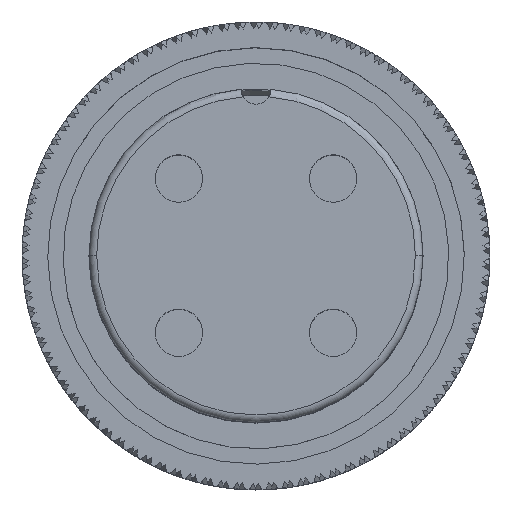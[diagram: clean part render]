
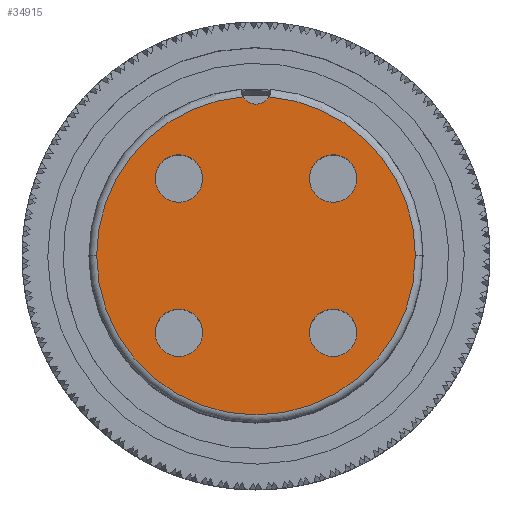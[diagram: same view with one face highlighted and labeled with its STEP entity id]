
A CAD part, top view. The second image highlights one B-rep face of the part: STEP entity #34915.
In plain terms, the highlighted planar face has unit normal (0, 0, 1).
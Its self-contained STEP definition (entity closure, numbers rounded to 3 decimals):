
#1341 = ORIENTED_EDGE ( 'NONE', *, *, #38010, .F. ) ;
#1692 = FACE_BOUND ( 'NONE', #70759, .T. ) ;
#1863 = AXIS2_PLACEMENT_3D ( 'NONE', #19989, #34430, #56594 ) ;
#2636 = DIRECTION ( 'NONE',  ( 1., 0., 0. ) ) ;
#2738 = DIRECTION ( 'NONE',  ( 1., 0., 0. ) ) ;
#3401 = VERTEX_POINT ( 'NONE', #41145 ) ;
#5804 = VERTEX_POINT ( 'NONE', #73381 ) ;
#6027 = ORIENTED_EDGE ( 'NONE', *, *, #13283, .F. ) ;
#6420 = ORIENTED_EDGE ( 'NONE', *, *, #58663, .T. ) ;
#7030 = CARTESIAN_POINT ( 'NONE',  ( 12.002, 23.481, -6.793 ) ) ;
#7294 = DIRECTION ( 'NONE',  ( 1., 0., 0. ) ) ;
#9123 = AXIS2_PLACEMENT_3D ( 'NONE', #21079, #57380, #14531 ) ;
#9875 = VERTEX_POINT ( 'NONE', #77086 ) ;
#9916 = DIRECTION ( 'NONE',  ( 0., 0., 1. ) ) ;
#10097 = DIRECTION ( 'NONE',  ( 1., 0., 0. ) ) ;
#10377 = DIRECTION ( 'NONE',  ( 1., 0., 0. ) ) ;
#11560 = FACE_OUTER_BOUND ( 'NONE', #39845, .T. ) ;
#12306 = FACE_BOUND ( 'NONE', #31764, .T. ) ;
#12788 = CIRCLE ( 'NONE', #43769, 6.2 ) ;
#12991 = CIRCLE ( 'NONE', #24520, 6.2 ) ;
#13283 = EDGE_CURVE ( 'NONE', #5804, #84894, #50457, .T. ) ;
#14397 = VERTEX_POINT ( 'NONE', #31478 ) ;
#14512 = EDGE_CURVE ( 'NONE', #9875, #3401, #55953, .T. ) ;
#14531 = DIRECTION ( 'NONE',  ( 1., 0., 0. ) ) ;
#16404 = ORIENTED_EDGE ( 'NONE', *, *, #20349, .T. ) ;
#17237 = DIRECTION ( 'NONE',  ( 0., 0., 1. ) ) ;
#17974 = EDGE_LOOP ( 'NONE', ( #66161, #71951 ) ) ;
#19989 = CARTESIAN_POINT ( 'NONE',  ( 21.202, 26.481, -6.793 ) ) ;
#20349 = EDGE_CURVE ( 'NONE', #69647, #90127, #12991, .T. ) ;
#21079 = CARTESIAN_POINT ( 'NONE',  ( 18.202, 29.955, -6.793 ) ) ;
#22078 = AXIS2_PLACEMENT_3D ( 'NONE', #66911, #9916, #2636 ) ;
#22789 = ORIENTED_EDGE ( 'NONE', *, *, #34160, .F. ) ;
#22916 = DIRECTION ( 'NONE',  ( 0., 0., 1. ) ) ;
#24520 = AXIS2_PLACEMENT_3D ( 'NONE', #33518, #47874, #2738 ) ;
#25864 = AXIS2_PLACEMENT_3D ( 'NONE', #26623, #40170, #47581 ) ;
#26053 = CIRCLE ( 'NONE', #9123, 0.58 ) ;
#26623 = CARTESIAN_POINT ( 'NONE',  ( 21.202, 20.481, -6.793 ) ) ;
#28696 = AXIS2_PLACEMENT_3D ( 'NONE', #44852, #59581, #60202 ) ;
#29903 = ORIENTED_EDGE ( 'NONE', *, *, #50441, .T. ) ;
#31478 = CARTESIAN_POINT ( 'NONE',  ( 20.279, 20.481, -6.793 ) ) ;
#31764 = EDGE_LOOP ( 'NONE', ( #22789, #6027 ) ) ;
#32815 = CIRCLE ( 'NONE', #25864, 0.922 ) ;
#33518 = CARTESIAN_POINT ( 'NONE',  ( 18.202, 23.481, -6.793 ) ) ;
#33590 = CARTESIAN_POINT ( 'NONE',  ( 15.202, 20.481, -6.793 ) ) ;
#34160 = EDGE_CURVE ( 'NONE', #84894, #5804, #71204, .T. ) ;
#34430 = DIRECTION ( 'NONE',  ( 0., 0., 1. ) ) ;
#34915 = ADVANCED_FACE ( 'NONE', ( #86012, #1692, #11560, #12306, #58782 ), #79984, .T. ) ;
#34967 = EDGE_CURVE ( 'NONE', #65574, #47926, #67840, .T. ) ;
#37257 = EDGE_CURVE ( 'NONE', #90127, #54393, #73069, .T. ) ;
#37811 = CARTESIAN_POINT ( 'NONE',  ( 14.279, 26.481, -6.793 ) ) ;
#38010 = EDGE_CURVE ( 'NONE', #60665, #14397, #92127, .T. ) ;
#39845 = EDGE_LOOP ( 'NONE', ( #6420, #29903, #16404, #76509 ) ) ;
#40170 = DIRECTION ( 'NONE',  ( 0., 0., 1. ) ) ;
#41145 = CARTESIAN_POINT ( 'NONE',  ( 14.279, 20.481, -6.793 ) ) ;
#41224 = CIRCLE ( 'NONE', #69608, 0.922 ) ;
#43177 = ORIENTED_EDGE ( 'NONE', *, *, #55678, .F. ) ;
#43769 = AXIS2_PLACEMENT_3D ( 'NONE', #86214, #22916, #7294 ) ;
#44852 = CARTESIAN_POINT ( 'NONE',  ( 21.202, 26.481, -6.793 ) ) ;
#46310 = CARTESIAN_POINT ( 'NONE',  ( 15.202, 20.481, -6.793 ) ) ;
#46469 = DIRECTION ( 'NONE',  ( 0., 0., 1. ) ) ;
#46956 = CARTESIAN_POINT ( 'NONE',  ( 24.402, 23.481, -6.793 ) ) ;
#47581 = DIRECTION ( 'NONE',  ( 1., 0., 0. ) ) ;
#47874 = DIRECTION ( 'NONE',  ( 0., 0., 1. ) ) ;
#47926 = VERTEX_POINT ( 'NONE', #73744 ) ;
#50441 = EDGE_CURVE ( 'NONE', #69049, #69647, #12788, .T. ) ;
#50457 = CIRCLE ( 'NONE', #1863, 0.922 ) ;
#51996 = DIRECTION ( 'NONE',  ( -1., 0., 0. ) ) ;
#54345 = CARTESIAN_POINT ( 'NONE',  ( 15.202, 26.481, -6.793 ) ) ;
#54393 = VERTEX_POINT ( 'NONE', #69024 ) ;
#54821 = DIRECTION ( 'NONE',  ( 0., 0., 1. ) ) ;
#55678 = EDGE_CURVE ( 'NONE', #47926, #65574, #64641, .T. ) ;
#55953 = CIRCLE ( 'NONE', #68028, 0.922 ) ;
#56594 = DIRECTION ( 'NONE',  ( -1., 0., 0. ) ) ;
#57241 = EDGE_LOOP ( 'NONE', ( #65213, #1341 ) ) ;
#57380 = DIRECTION ( 'NONE',  ( 0., 0., -1. ) ) ;
#58663 = EDGE_CURVE ( 'NONE', #54393, #69049, #26053, .T. ) ;
#58782 = FACE_BOUND ( 'NONE', #17974, .T. ) ;
#59581 = DIRECTION ( 'NONE',  ( 0., 0., 1. ) ) ;
#60202 = DIRECTION ( 'NONE',  ( -1., 0., 0. ) ) ;
#60665 = VERTEX_POINT ( 'NONE', #92905 ) ;
#61239 = DIRECTION ( 'NONE',  ( 1., 0., 0. ) ) ;
#61729 = DIRECTION ( 'NONE',  ( 0., 0., 1. ) ) ;
#62010 = DIRECTION ( 'NONE',  ( 1., 0., 0. ) ) ;
#64641 = CIRCLE ( 'NONE', #65060, 0.922 ) ;
#65060 = AXIS2_PLACEMENT_3D ( 'NONE', #83268, #61729, #10377 ) ;
#65213 = ORIENTED_EDGE ( 'NONE', *, *, #90238, .F. ) ;
#65574 = VERTEX_POINT ( 'NONE', #37811 ) ;
#65783 = CARTESIAN_POINT ( 'NONE',  ( 17.702, 29.661, -6.793 ) ) ;
#66161 = ORIENTED_EDGE ( 'NONE', *, *, #83662, .F. ) ;
#66456 = DIRECTION ( 'NONE',  ( 0., 0., 1. ) ) ;
#66911 = CARTESIAN_POINT ( 'NONE',  ( 18.202, 26.718, -6.793 ) ) ;
#67840 = CIRCLE ( 'NONE', #89370, 0.922 ) ;
#68028 = AXIS2_PLACEMENT_3D ( 'NONE', #46310, #17237, #51996 ) ;
#68955 = DIRECTION ( 'NONE',  ( 0., 0., 1. ) ) ;
#69024 = CARTESIAN_POINT ( 'NONE',  ( 18.701, 29.661, -6.793 ) ) ;
#69049 = VERTEX_POINT ( 'NONE', #65783 ) ;
#69272 = DIRECTION ( 'NONE',  ( -1., 0., 0. ) ) ;
#69608 = AXIS2_PLACEMENT_3D ( 'NONE', #33590, #68955, #69272 ) ;
#69647 = VERTEX_POINT ( 'NONE', #7030 ) ;
#70759 = EDGE_LOOP ( 'NONE', ( #78712, #43177 ) ) ;
#71204 = CIRCLE ( 'NONE', #28696, 0.922 ) ;
#71951 = ORIENTED_EDGE ( 'NONE', *, *, #14512, .F. ) ;
#73069 = CIRCLE ( 'NONE', #77085, 6.2 ) ;
#73381 = CARTESIAN_POINT ( 'NONE',  ( 22.124, 26.481, -6.793 ) ) ;
#73744 = CARTESIAN_POINT ( 'NONE',  ( 16.124, 26.481, -6.793 ) ) ;
#73918 = CARTESIAN_POINT ( 'NONE',  ( 21.202, 20.481, -6.793 ) ) ;
#74102 = AXIS2_PLACEMENT_3D ( 'NONE', #73918, #66456, #10097 ) ;
#76509 = ORIENTED_EDGE ( 'NONE', *, *, #37257, .T. ) ;
#77085 = AXIS2_PLACEMENT_3D ( 'NONE', #90840, #54821, #62010 ) ;
#77086 = CARTESIAN_POINT ( 'NONE',  ( 16.124, 20.481, -6.793 ) ) ;
#78712 = ORIENTED_EDGE ( 'NONE', *, *, #34967, .F. ) ;
#79984 = PLANE ( 'NONE',  #22078 ) ;
#83268 = CARTESIAN_POINT ( 'NONE',  ( 15.202, 26.481, -6.793 ) ) ;
#83662 = EDGE_CURVE ( 'NONE', #3401, #9875, #41224, .T. ) ;
#84894 = VERTEX_POINT ( 'NONE', #87965 ) ;
#86012 = FACE_BOUND ( 'NONE', #57241, .T. ) ;
#86214 = CARTESIAN_POINT ( 'NONE',  ( 18.202, 23.481, -6.793 ) ) ;
#87965 = CARTESIAN_POINT ( 'NONE',  ( 20.279, 26.481, -6.793 ) ) ;
#89370 = AXIS2_PLACEMENT_3D ( 'NONE', #54345, #46469, #61239 ) ;
#90127 = VERTEX_POINT ( 'NONE', #46956 ) ;
#90238 = EDGE_CURVE ( 'NONE', #14397, #60665, #32815, .T. ) ;
#90840 = CARTESIAN_POINT ( 'NONE',  ( 18.202, 23.481, -6.793 ) ) ;
#92127 = CIRCLE ( 'NONE', #74102, 0.922 ) ;
#92905 = CARTESIAN_POINT ( 'NONE',  ( 22.124, 20.481, -6.793 ) ) ;
